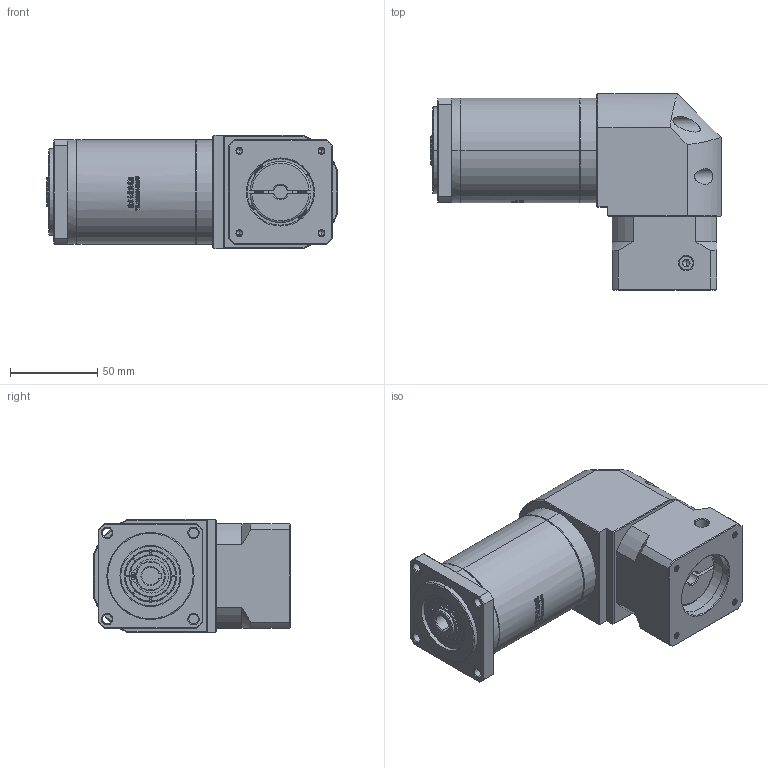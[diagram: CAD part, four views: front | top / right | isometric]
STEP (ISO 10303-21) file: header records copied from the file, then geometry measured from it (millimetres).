
FILE_DESCRIPTION (( 'STEP AP214' ), '1' );
FILE_NAME ('ZFR60-K10-L3-8-38.1-47.14x47.14-M4.STEP', '2022-04-20T08:20:32', ( '' ), ( 'Microsoft' ), 'SwSTEP 2.0', 'SolidWorks 2016', '' );
FILE_SCHEMA (( 'AUTOMOTIVE_DESIGN' ));
Length unit declared in the file: millimetre
Products named in the file (1): ZFR60-K10-L3-8-38.1-47.14x47.14-M4
Bounding box: 166.5 x 112.7 x 65 mm (x, y, z)
Volume: 634019.6 mm3; surface area: 85584.6 mm2
Topology: 5 solids, 6 shells, 2622 faces, 7156 edges, 4671 vertices
Faces by surface type: plane 1391, bspline 572, cylinder 353, cone 282, torus 24
Entity records: 140554 total; most frequent: CARTESIAN_POINT 50617, ORIENTED_EDGE 14272, DIRECTION 10320, EDGE_CURVE 7136, VERTEX_POINT 4671, LINE 4320, VECTOR 4320, AXIS2_PLACEMENT_3D 3000
